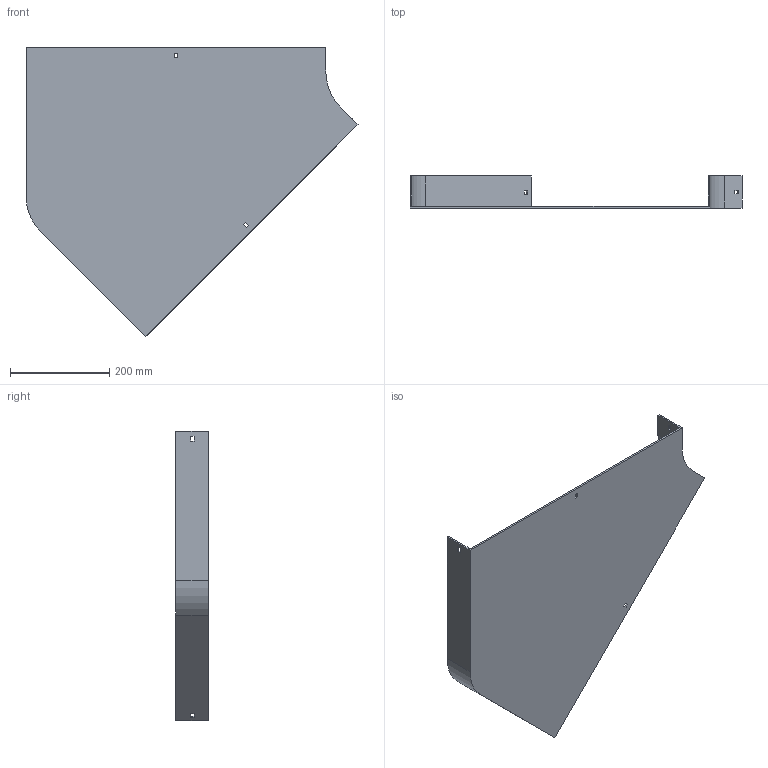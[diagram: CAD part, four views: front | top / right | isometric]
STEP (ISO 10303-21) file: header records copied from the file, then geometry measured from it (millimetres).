
FILE_DESCRIPTION (( 'STEP AP214' ), '1' );
FILE_NAME ('11B1H600.step', '2025-02-21T09:38:26', ( '' ), ( '' ), 'SwSTEP 2.0', 'SolidWorks 2023', '' );
FILE_SCHEMA (( 'AUTOMOTIVE_DESIGN' ));
Length unit declared in the file: millimetre
Products named in the file (1): 11B1H600
Bounding box: 668.64 x 65.5 x 583.16 mm (x, y, z)
Volume: 1100097.6 mm3; surface area: 637417.3 mm2
Topology: 1 solids, 1 shells, 42 faces, 120 edges, 80 vertices
Faces by surface type: plane 38, cylinder 4
Entity records: 1399 total; most frequent: CARTESIAN_POINT 243, ORIENTED_EDGE 240, DIRECTION 214, EDGE_CURVE 120, LINE 112, VECTOR 112, VERTEX_POINT 80, EDGE_LOOP 54
